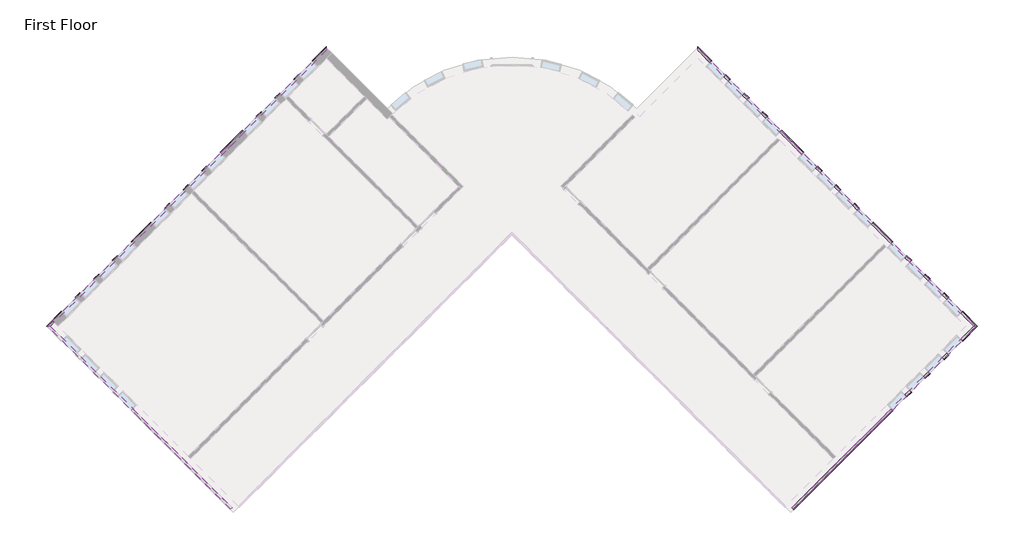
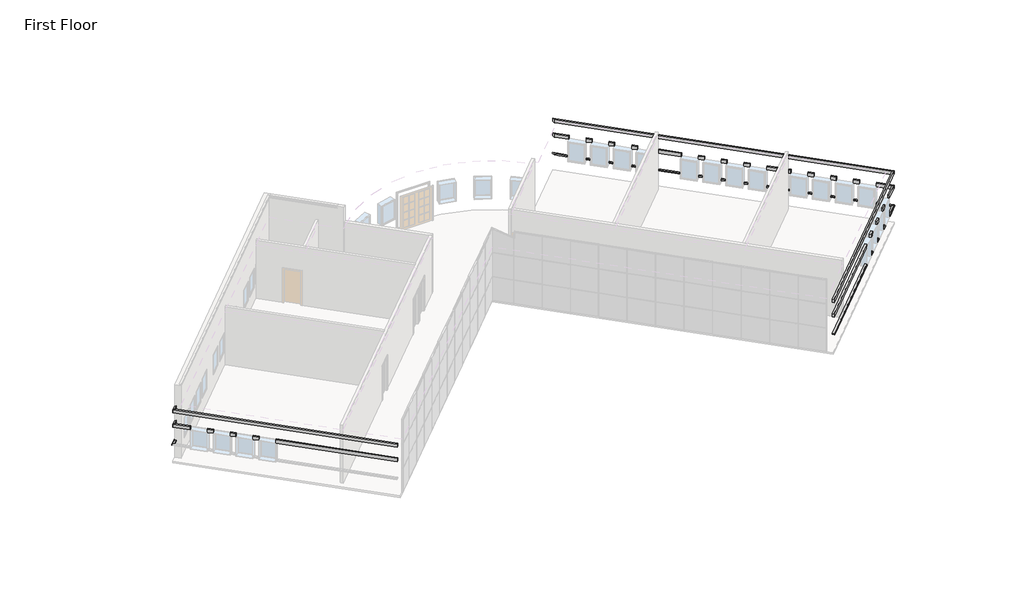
# One storey, part 5 of 5: 11 proxies.
"""IFC4 building model written with IfcOpenShell, lengths in millimetres."""

import ifcopenshell
import ifcopenshell.guid

model = None  # the IFC model being written
_history = None  # IfcOwnerHistory: only IFC2X3 demands one
_inside = {}  # id of a spatial element -> (the spatial element, [elements in it])
_under = {}  # id of a project, library or spatial element -> (it, [spatial elements below it])
_declared = {}  # id of a project -> (the project, [libraries it declares])
_typed = {}  # id of a type object -> (the type object, [elements of that type])
_made_of = {}  # id of a material, layer set ... -> (it, [elements and type objects made of it])


def new_model(schema):
    """Start an empty IFC model of exactly this schema.

    Asked for "IFC4X3", IfcOpenShell would pick the latest addendum, in which some entities
    have other attributes; the version numbers below select the first issue.
    IFC2X3 requires an IfcOwnerHistory on every rooted entity: one is made here for all.
    """
    global model, _history
    if schema == "IFC4X3":
        model = ifcopenshell.file(schema_version=(4, 3, 0, 0))
    else:
        model = ifcopenshell.file(schema=schema)
    _inside.clear()
    _under.clear()
    _declared.clear()
    _typed.clear()
    _made_of.clear()
    _history = None
    if model.schema == "IFC2X3":
        org = make("IfcOrganization", Name="unknown")
        user = make(
            "IfcPersonAndOrganization",
            ThePerson=make("IfcPerson", FamilyName="unknown"),
            TheOrganization=org,
        )
        app = make(
            "IfcApplication",
            ApplicationDeveloper=org,
            Version="unknown",
            ApplicationFullName="unknown",
            ApplicationIdentifier="unknown",
        )
        _history = make(
            "IfcOwnerHistory",
            OwningUser=user,
            OwningApplication=app,
            ChangeAction="ADDED",
            CreationDate=0,
        )
    return model


def make(cls, **values):
    """One entity of the class cls with the attributes given. An attribute that is None is left unset."""
    return model.create_entity(
        cls, **{name: value for name, value in values.items() if value is not None}
    )


def rooted(cls, **values):
    """An entity with a GlobalId (a new one), such as an element, a storey or a relation."""
    return make(cls, GlobalId=ifcopenshell.guid.new(), OwnerHistory=_history, **values)


def si_unit(unit_type, name, prefix=None):
    """IfcSIUnit, for example si_unit("LENGTHUNIT", "METRE", prefix="MILLI")."""
    return make("IfcSIUnit", UnitType=unit_type, Prefix=prefix, Name=name)


def assignment(units):
    """IfcUnitAssignment: the units of a project."""
    return None if units is None else make("IfcUnitAssignment", Units=units)


def point(xyz):
    """IfcCartesianPoint."""
    return None if xyz is None else make("IfcCartesianPoint", Coordinates=xyz)


def direction(xyz):
    """IfcDirection."""
    return None if xyz is None else make("IfcDirection", DirectionRatios=xyz)


def frame(location, z_axis=None, x_axis=None):
    """IfcAxis2Placement3D, a coordinate frame: its origin and axes. An axis left out is left unset."""
    return make(
        "IfcAxis2Placement3D",
        Location=point(location),
        Axis=direction(z_axis),
        RefDirection=direction(x_axis),
    )


def origin():
    """The frame at (0, 0, 0) with its axes left unset."""
    return frame((0.0, 0.0, 0.0))


def place(relative_to, where):
    """IfcLocalPlacement: puts the frame where relative to a parent placement (None: the world)."""
    return make(
        "IfcLocalPlacement", PlacementRelTo=relative_to, RelativePlacement=where
    )


def context(
    kind, dimensions, precision=None, world=None, true_north=None, identifier=None
):
    """IfcGeometricRepresentationContext, for example the 3D "Model" context."""
    return make(
        "IfcGeometricRepresentationContext",
        ContextIdentifier=identifier,
        ContextType=kind,
        CoordinateSpaceDimension=dimensions,
        Precision=precision,
        WorldCoordinateSystem=world,
        TrueNorth=true_north,
    )


def project(units=None, contexts=None):
    """IfcProject with its units and contexts."""
    return rooted(
        "IfcProject",
        Name="project",
        RepresentationContexts=contexts,
        UnitsInContext=assignment(units),
    )


def spatial(cls, under=None, at=None, **own):
    """A site, building, storey or space (cls), placed at a placement, below another one or the project."""
    s = rooted(cls, ObjectPlacement=at, **own)
    if under is not None:
        _under.setdefault(under.id(), (under, []))[1].append(s)
    return s


def polyline(points):
    """IfcPolyline through the points."""
    return make("IfcPolyline", Points=[point(p) for p in points])


def outline(outer, holes=None, kind="AREA"):
    """IfcArbitraryClosedProfileDef: a profile drawn as a closed curve; with holes, ...WithVoids."""
    if holes is None:
        return make("IfcArbitraryClosedProfileDef", ProfileType=kind, OuterCurve=outer)
    return make(
        "IfcArbitraryProfileDefWithVoids",
        ProfileType=kind,
        OuterCurve=outer,
        InnerCurves=holes,
    )


def extrude(swept, where, along, depth):
    """IfcExtrudedAreaSolid: the profile swept, set in the frame where, extruded along a direction by depth."""
    return make(
        "IfcExtrudedAreaSolid",
        SweptArea=swept,
        Position=where,
        ExtrudedDirection=direction(along),
        Depth=depth,
    )


def faces_of(points, faces, orient=None, outer=None):
    """IfcFace entities. A face is a list of loops; a loop is a list of indices into points, from 0.

    orient and outer hold one flag for each loop. By default every Orientation is true, the
    first loop of a face is its IfcFaceOuterBound and the others are IfcFaceBound.
    """
    made = []
    for i, loops in enumerate(faces):
        bounds = []
        for j, loop in enumerate(loops):
            is_outer = j == 0 if outer is None else outer[i][j]
            bounds.append(
                make(
                    "IfcFaceOuterBound" if is_outer else "IfcFaceBound",
                    Bound=make("IfcPolyLoop", Polygon=[points[k] for k in loop]),
                    Orientation=True if orient is None else orient[i][j],
                )
            )
        made.append(make("IfcFace", Bounds=bounds))
    return made


def faceted_brep(points, faces, orient=None, outer=None, voids=None):
    """IfcFacetedBrep: a solid bounded by flat faces; with voids (closed shells), ...WithVoids."""
    shared = [point(p) for p in points]
    hull = make("IfcClosedShell", CfsFaces=faces_of(shared, faces, orient, outer))
    if voids is None:
        return make("IfcFacetedBrep", Outer=hull)
    return make(
        "IfcFacetedBrepWithVoids",
        Outer=hull,
        Voids=[
            make(cls, CfsFaces=faces_of(shared, fs, o, b)) for cls, fs, o, b in voids
        ],
    )


def shape(context_of_items, identifier, shape_type, items):
    """IfcShapeRepresentation: the items that make up one representation, for example the "Body"."""
    return make(
        "IfcShapeRepresentation",
        ContextOfItems=context_of_items,
        RepresentationIdentifier=identifier,
        RepresentationType=shape_type,
        Items=items,
    )


def made_of(thing, what):
    """Note that an element or type object is made of a material, layer set ...; save() writes the relation."""
    if what is not None:
        _made_of.setdefault(what.id(), (what, []))[1].append(thing)
    return thing


def element(
    cls,
    number,
    at=None,
    inside=None,
    cuts=None,
    type_object=None,
    material=None,
    context=None,
    identifier="Body",
    shape_type=None,
    held_by="IfcProductDefinitionShape",
    body=None,
    shapes=None,
    **own,
):
    """One element of the class cls, such as IfcWall. Its Tag is "e" and its number.

    at: its placement. inside: the storey or other place that contains it. cuts: it is an
    opening in that element (IfcRelVoidsElement). A single representation is given by context,
    identifier, shape_type and body (its items); several are given by shapes. held_by: the class
    of the entity that holds the representations. save() writes the other relations.
    """
    e = rooted(cls, Tag="e%d" % number, ObjectPlacement=at, **own)
    if body is not None:
        shapes = [shape(context, identifier, shape_type, body)]
    if shapes is not None:
        e.Representation = make(held_by, Representations=shapes)
    if inside is not None:
        _inside.setdefault(inside.id(), (inside, []))[1].append(e)
    if cuts is not None:
        rooted(
            "IfcRelVoidsElement", RelatingBuildingElement=cuts, RelatedOpeningElement=e
        )
    if type_object is not None:
        _typed.setdefault(type_object.id(), (type_object, []))[1].append(e)
    return made_of(e, material)


def aggregate(whole, parts):
    """IfcRelAggregates: a whole, such as a stair, and the parts it consists of."""
    return rooted("IfcRelAggregates", RelatingObject=whole, RelatedObjects=parts)


def save(model, path):
    """Write the relations noted so far, then the file.

    IfcRelAggregates (storeys below a building ...), IfcRelContainedInSpatialStructure (elements
    in a storey), IfcRelDefinesByType, IfcRelAssociatesMaterial and IfcRelDeclares: one each for
    every whole, place, type object, material and project.
    """
    for whole, parts in _under.values():
        aggregate(whole, parts)
    for where, things in _inside.values():
        rooted(
            "IfcRelContainedInSpatialStructure",
            RelatedElements=things,
            RelatingStructure=where,
        )
    for kind, things in _typed.values():
        rooted("IfcRelDefinesByType", RelatedObjects=things, RelatingType=kind)
    for what, things in _made_of.values():
        rooted("IfcRelAssociatesMaterial", RelatedObjects=things, RelatingMaterial=what)
    for by, libraries in _declared.values():
        rooted("IfcRelDeclares", RelatingContext=by, RelatedDefinitions=libraries)
    model.write(path)


model = new_model("IFC4")

# Units and contexts
model_context = context("Model", 3, world=origin())
ifc_project = project(units=[si_unit("LENGTHUNIT", "METRE", prefix="MILLI")], contexts=[model_context])

# Site, building, storey
site = spatial("IfcSite", under=ifc_project)
building = spatial("IfcBuilding", under=site)
storey = spatial("IfcBuildingStorey", under=building, Name="First Floor", Elevation=0.0)

# Proxies
placement = place(None, origin())
element("IfcBuildingElementProxy", 1, Name="Wall Sweeps", at=placement, inside=storey, context=model_context, shape_type="Brep", body=[
    faceted_brep([(5753.0175119, 11443.3655905, 1085.85), (5753.0175119, 11573.5793042, 1085.85), (5753.0175119, 11622.9707129, 1041.4), (5753.0175119, 11622.9707129, 1016.0), (5753.0175119, 11443.3655905, 1016.0), (6317.415551, 10878.9675514, 1085.85), (6317.415551, 10878.9675514, 1016.0), (6382.5224079, 10944.0744083, 1016.0), (6407.2181122, 10968.7701126, 1016.0), (6407.2181122, 10968.7701126, 1041.4), (6382.5224079, 10944.0744083, 1085.85), (5937.1127624, 11259.27034, 1085.85), (5937.1127624, 11259.27034, 1016.0)], [[[0, 1, 2, 3, 4]], [[5, 6, 7, 8, 9, 10]], [[1, 0, 11, 5, 10]], [[2, 1, 10, 9]], [[3, 2, 9, 8]], [[4, 3, 8, 7, 6, 12]], [[0, 4, 12, 6, 5, 11]]]),
    faceted_brep([(6963.9939917, 10232.3891107, 1085.85), (7029.1008486, 10297.4959676, 1085.85), (7053.7965529, 10322.1916719, 1041.4), (7053.7965529, 10322.1916719, 1016.0), (7029.1008486, 10297.4959676, 1016.0), (6963.9939917, 10232.3891107, 1016.0), (7179.5201386, 10016.8629638, 1085.85), (7179.5201386, 10016.8629638, 1016.0), (7244.6269955, 10081.9698207, 1016.0), (7269.3226998, 10106.665525, 1016.0), (7269.3226998, 10106.665525, 1041.4), (7244.6269955, 10081.9698207, 1085.85)], [[[0, 1, 2, 3, 4, 5]], [[6, 7, 8, 9, 10, 11]], [[1, 0, 6, 11]], [[2, 1, 11, 10]], [[3, 2, 10, 9]], [[5, 4, 3, 9, 8, 7]], [[0, 5, 7, 6]]]),
    faceted_brep([(7826.0985793, 9370.2845231, 1085.85), (7891.2054362, 9435.39138, 1085.85), (7915.9011405, 9460.0870843, 1041.4), (7915.9011405, 9460.0870843, 1016.0), (7891.2054362, 9435.39138, 1016.0), (7826.0985793, 9370.2845231, 1016.0), (8041.6247262, 9154.7583762, 1085.85), (8041.6247262, 9154.7583762, 1016.0), (8106.7315831, 9219.8652331, 1016.0), (8131.4272874, 9244.5609374, 1016.0), (8131.4272874, 9244.5609374, 1041.4), (8106.7315831, 9219.8652331, 1085.85)], [[[0, 1, 2, 3, 4, 5]], [[6, 7, 8, 9, 10, 11]], [[1, 0, 6, 11]], [[2, 1, 11, 10]], [[3, 2, 10, 9]], [[5, 4, 3, 9, 8, 7]], [[0, 5, 7, 6]]]),
    faceted_brep([(8688.2031669, 8508.1799355, 1085.85), (8753.3100238, 8573.2867923, 1085.85), (8778.0057282, 8597.9824967, 1041.4), (8778.0057282, 8597.9824967, 1016.0), (8753.3100238, 8573.2867923, 1016.0), (8688.2031669, 8508.1799355, 1016.0), (8903.7293139, 8292.6537886, 1085.85), (8903.7293139, 8292.6537886, 1016.0), (8968.8361707, 8357.7606454, 1016.0), (8993.5318751, 8382.4563498, 1016.0), (8993.5318751, 8382.4563498, 1041.4), (8968.8361707, 8357.7606454, 1085.85)], [[[0, 1, 2, 3, 4, 5]], [[6, 7, 8, 9, 10, 11]], [[1, 0, 6, 11]], [[2, 1, 11, 10]], [[3, 2, 10, 9]], [[5, 4, 3, 9, 8, 7]], [[0, 5, 7, 6]]]),
    faceted_brep([(9550.3077546, 7646.0753478, 1085.85), (9615.4146114, 7711.1822047, 1085.85), (9640.1103158, 7735.877909, 1041.4), (9640.1103158, 7735.877909, 1016.0), (9615.4146114, 7711.1822047, 1016.0), (9550.3077546, 7646.0753478, 1016.0), (10574.7639411, 6621.6191613, 1085.85), (10574.7639411, 6621.6191613, 1016.0), (10639.870798, 6686.7260182, 1016.0), (10664.5665023, 6711.4217225, 1016.0), (10664.5665023, 6711.4217225, 1041.4), (10639.870798, 6686.7260182, 1085.85)], [[[0, 1, 2, 3, 4, 5]], [[6, 7, 8, 9, 10, 11]], [[1, 0, 6, 11]], [[2, 1, 11, 10]], [[3, 2, 10, 9]], [[5, 4, 3, 9, 8, 7]], [[0, 5, 7, 6]]]),
    faceted_brep([(11221.3423818, 5975.0407206, 1085.85), (11286.4492387, 6040.1475775, 1085.85), (11311.144943, 6064.8432818, 1041.4), (11311.144943, 6064.8432818, 1016.0), (11286.4492387, 6040.1475775, 1016.0), (11221.3423818, 5975.0407206, 1016.0), (11436.8685287, 5759.5145737, 1085.85), (11436.8685287, 5759.5145737, 1016.0), (11501.9753856, 5824.6214306, 1016.0), (11526.6710899, 5849.3171349, 1016.0), (11526.6710899, 5849.3171349, 1041.4), (11501.9753856, 5824.6214306, 1085.85)], [[[0, 1, 2, 3, 4, 5]], [[6, 7, 8, 9, 10, 11]], [[1, 0, 6, 11]], [[2, 1, 11, 10]], [[3, 2, 10, 9]], [[5, 4, 3, 9, 8, 7]], [[0, 5, 7, 6]]]),
    faceted_brep([(12083.4469694, 5112.936133, 1085.85), (12148.5538263, 5178.0429899, 1085.85), (12173.2495306, 5202.7386942, 1041.4), (12173.2495306, 5202.7386942, 1016.0), (12148.5538263, 5178.0429899, 1016.0), (12083.4469694, 5112.936133, 1016.0), (12298.9731163, 4897.4099861, 1085.85), (12298.9731163, 4897.4099861, 1016.0), (12364.0799732, 4962.516843, 1016.0), (12388.7756775, 4987.2125473, 1016.0), (12388.7756775, 4987.2125473, 1041.4), (12364.0799732, 4962.516843, 1085.85)], [[[0, 1, 2, 3, 4, 5]], [[6, 7, 8, 9, 10, 11]], [[1, 0, 6, 11]], [[2, 1, 11, 10]], [[3, 2, 10, 9]], [[5, 4, 3, 9, 8, 7]], [[0, 5, 7, 6]]]),
    faceted_brep([(12945.551557, 4250.8315454, 1085.85), (13010.6584139, 4315.9384023, 1085.85), (13035.3541182, 4340.6341066, 1041.4), (13035.3541182, 4340.6341066, 1016.0), (13010.6584139, 4315.9384023, 1016.0), (12945.551557, 4250.8315454, 1016.0), (13161.0777039, 4035.3053985, 1085.85), (13161.0777039, 4035.3053985, 1016.0), (13226.1845608, 4100.4122553, 1016.0), (13250.8802652, 4125.1079597, 1016.0), (13250.8802652, 4125.1079597, 1041.4), (13226.1845608, 4100.4122553, 1085.85)], [[[0, 1, 2, 3, 4, 5]], [[6, 7, 8, 9, 10, 11]], [[1, 0, 6, 11]], [[2, 1, 11, 10]], [[3, 2, 10, 9]], [[5, 4, 3, 9, 8, 7]], [[0, 5, 7, 6]]]),
    faceted_brep([(13807.6561447, 3388.7269578, 1085.85), (13872.7630015, 3453.8338146, 1085.85), (13897.4587059, 3478.529519, 1041.4), (13897.4587059, 3478.529519, 1016.0), (13872.7630015, 3453.8338146, 1016.0), (13807.6561447, 3388.7269578, 1016.0), (14723.1708449, 2473.2122576, 1085.85), (14723.1708449, 2473.2122576, 1016.0), (14788.2777017, 2538.3191144, 1016.0), (14812.9734061, 2563.0148188, 1016.0), (14812.9734061, 2563.0148188, 1041.4), (14788.2777017, 2538.3191144, 1085.85)], [[[0, 1, 2, 3, 4, 5]], [[6, 7, 8, 9, 10, 11]], [[1, 0, 6, 11]], [[2, 1, 11, 10]], [[3, 2, 10, 9]], [[5, 4, 3, 9, 8, 7]], [[0, 5, 7, 6]]]),
    faceted_brep([(15369.7492856, 1826.6338168, 1085.85), (15434.8561424, 1891.7406737, 1085.85), (15459.5518468, 1916.4363781, 1041.4), (15459.5518468, 1916.4363781, 1016.0), (15434.8561424, 1891.7406737, 1016.0), (15369.7492856, 1826.6338168, 1016.0), (15585.2754325, 1611.1076699, 1085.85), (15585.2754325, 1611.1076699, 1016.0), (15650.3822894, 1676.2145268, 1016.0), (15675.0779937, 1700.9102311, 1016.0), (15675.0779937, 1700.9102311, 1041.4), (15650.3822894, 1676.2145268, 1085.85)], [[[0, 1, 2, 3, 4, 5]], [[6, 7, 8, 9, 10, 11]], [[1, 0, 6, 11]], [[2, 1, 11, 10]], [[3, 2, 10, 9]], [[5, 4, 3, 9, 8, 7]], [[0, 5, 7, 6]]]),
    faceted_brep([(16231.8538732, 964.5292292, 1085.85), (16296.9607301, 1029.6360861, 1085.85), (16321.6564344, 1054.3317904, 1041.4), (16321.6564344, 1054.3317904, 1016.0), (16296.9607301, 1029.6360861, 1016.0), (16231.8538732, 964.5292292, 1016.0), (16447.3800201, 749.0030823, 1085.85), (16447.3800201, 749.0030823, 1016.0), (16512.486877, 814.1099392, 1016.0), (16537.1825813, 838.8056435, 1016.0), (16537.1825813, 838.8056435, 1041.4), (16512.486877, 814.1099392, 1085.85)], [[[0, 1, 2, 3, 4, 5]], [[6, 7, 8, 9, 10, 11]], [[1, 0, 6, 11]], [[2, 1, 11, 10]], [[3, 2, 10, 9]], [[5, 4, 3, 9, 8, 7]], [[0, 5, 7, 6]]]),
    faceted_brep([(17093.9584608, 102.4246416, 1085.85), (17159.0653177, 167.5314985, 1085.85), (17183.761022, 192.2272028, 1041.4), (17183.761022, 192.2272028, 1016.0), (17159.0653177, 167.5314985, 1016.0), (17093.9584608, 102.4246416, 1016.0), (17309.4846077, -113.1015053, 1085.85), (17309.4846077, -113.1015053, 1016.0), (17374.5914646, -47.9946484, 1016.0), (17399.2871689, -23.2989441, 1016.0), (17399.2871689, -23.2989441, 1041.4), (17374.5914646, -47.9946484, 1085.85)], [[[0, 1, 2, 3, 4, 5]], [[6, 7, 8, 9, 10, 11]], [[1, 0, 6, 11]], [[2, 1, 11, 10]], [[3, 2, 10, 9]], [[5, 4, 3, 9, 8, 7]], [[0, 5, 7, 6]]]),
    faceted_brep([(17956.0630484, -759.679946, 1085.85), (18021.1699053, -694.5730891, 1085.85), (18045.8656096, -669.8773848, 1041.4), (18045.8656096, -669.8773848, 1016.0), (18021.1699053, -694.5730891, 1016.0), (17956.0630484, -759.679946, 1016.0), (18554.3726125, -1357.9895101, 1085.85), (18554.3726125, -1357.9895101, 1016.0), (18733.9777349, -1357.9895101, 1016.0), (18733.9777349, -1357.9895101, 1041.4), (18684.5863263, -1357.9895101, 1085.85)], [[[0, 1, 2, 3, 4, 5]], [[6, 7, 8, 9, 10]], [[1, 0, 6, 10]], [[2, 1, 10, 9]], [[3, 2, 9, 8]], [[5, 4, 3, 8, 7]], [[0, 5, 7, 6]]]),
])
element("IfcBuildingElementProxy", 2, Name="Wall Sweeps", at=placement, inside=storey, context=model_context, shape_type="Brep", body=[
    faceted_brep([(5753.0175119, 11573.5793042, 2336.8), (5753.0175119, 11573.5793042, 2133.6), (5753.0175119, 11443.3655905, 2133.6), (5753.0175119, 11443.3655905, 2336.8), (6382.5224079, 10944.0744083, 2336.8), (6317.415551, 10878.9675514, 2336.8), (6317.415551, 10878.9675514, 2133.6), (6382.5224079, 10944.0744083, 2133.6), (6002.2196193, 11324.3771969, 2336.8), (6002.2196193, 11324.3771969, 2133.6), (5937.1127624, 11259.27034, 2133.6), (5937.1127624, 11259.27034, 2336.8)], [[[0, 1, 2, 3]], [[4, 5, 6, 7]], [[1, 0, 8, 4, 7, 9]], [[2, 1, 9, 7, 6, 10]], [[3, 2, 10, 6, 5, 11]], [[0, 3, 11, 5, 4, 8]]]),
    faceted_brep([(7029.1008486, 10297.4959676, 2336.8), (7029.1008486, 10297.4959676, 2133.6), (6963.9939917, 10232.3891107, 2133.6), (6963.9939917, 10232.3891107, 2336.8), (7244.6269955, 10081.9698207, 2336.8), (7179.5201386, 10016.8629638, 2336.8), (7179.5201386, 10016.8629638, 2133.6), (7244.6269955, 10081.9698207, 2133.6)], [[[0, 1, 2, 3]], [[4, 5, 6, 7]], [[1, 0, 4, 7]], [[2, 1, 7, 6]], [[3, 2, 6, 5]], [[0, 3, 5, 4]]]),
    faceted_brep([(7891.2054362, 9435.39138, 2336.8), (7891.2054362, 9435.39138, 2133.6), (7826.0985793, 9370.2845231, 2133.6), (7826.0985793, 9370.2845231, 2336.8), (8106.7315831, 9219.8652331, 2336.8), (8041.6247262, 9154.7583762, 2336.8), (8041.6247262, 9154.7583762, 2133.6), (8106.7315831, 9219.8652331, 2133.6)], [[[0, 1, 2, 3]], [[4, 5, 6, 7]], [[1, 0, 4, 7]], [[2, 1, 7, 6]], [[3, 2, 6, 5]], [[0, 3, 5, 4]]]),
    faceted_brep([(8753.3100238, 8573.2867923, 2336.8), (8753.3100238, 8573.2867923, 2133.6), (8688.2031669, 8508.1799355, 2133.6), (8688.2031669, 8508.1799355, 2336.8), (8968.8361707, 8357.7606454, 2336.8), (8903.7293139, 8292.6537886, 2336.8), (8903.7293139, 8292.6537886, 2133.6), (8968.8361707, 8357.7606454, 2133.6)], [[[0, 1, 2, 3]], [[4, 5, 6, 7]], [[1, 0, 4, 7]], [[2, 1, 7, 6]], [[3, 2, 6, 5]], [[0, 3, 5, 4]]]),
    faceted_brep([(9615.4146114, 7711.1822047, 2336.8), (9615.4146114, 7711.1822047, 2133.6), (9550.3077546, 7646.0753478, 2133.6), (9550.3077546, 7646.0753478, 2336.8), (10639.870798, 6686.7260182, 2336.8), (10574.7639411, 6621.6191613, 2336.8), (10574.7639411, 6621.6191613, 2133.6), (10639.870798, 6686.7260182, 2133.6)], [[[0, 1, 2, 3]], [[4, 5, 6, 7]], [[1, 0, 4, 7]], [[2, 1, 7, 6]], [[3, 2, 6, 5]], [[0, 3, 5, 4]]]),
    faceted_brep([(11286.4492387, 6040.1475775, 2336.8), (11286.4492387, 6040.1475775, 2133.6), (11221.3423818, 5975.0407206, 2133.6), (11221.3423818, 5975.0407206, 2336.8), (11501.9753856, 5824.6214306, 2336.8), (11436.8685287, 5759.5145737, 2336.8), (11436.8685287, 5759.5145737, 2133.6), (11501.9753856, 5824.6214306, 2133.6)], [[[0, 1, 2, 3]], [[4, 5, 6, 7]], [[1, 0, 4, 7]], [[2, 1, 7, 6]], [[3, 2, 6, 5]], [[0, 3, 5, 4]]]),
    faceted_brep([(12148.5538263, 5178.0429899, 2336.8), (12148.5538263, 5178.0429899, 2133.6), (12083.4469694, 5112.936133, 2133.6), (12083.4469694, 5112.936133, 2336.8), (12364.0799732, 4962.516843, 2336.8), (12298.9731163, 4897.4099861, 2336.8), (12298.9731163, 4897.4099861, 2133.6), (12364.0799732, 4962.516843, 2133.6)], [[[0, 1, 2, 3]], [[4, 5, 6, 7]], [[1, 0, 4, 7]], [[2, 1, 7, 6]], [[3, 2, 6, 5]], [[0, 3, 5, 4]]]),
    faceted_brep([(13010.6584139, 4315.9384023, 2336.8), (13010.6584139, 4315.9384023, 2133.6), (12945.551557, 4250.8315454, 2133.6), (12945.551557, 4250.8315454, 2336.8), (13226.1845608, 4100.4122553, 2336.8), (13161.0777039, 4035.3053985, 2336.8), (13161.0777039, 4035.3053985, 2133.6), (13226.1845608, 4100.4122553, 2133.6)], [[[0, 1, 2, 3]], [[4, 5, 6, 7]], [[1, 0, 4, 7]], [[2, 1, 7, 6]], [[3, 2, 6, 5]], [[0, 3, 5, 4]]]),
    faceted_brep([(13872.7630015, 3453.8338146, 2336.8), (13872.7630015, 3453.8338146, 2133.6), (13807.6561447, 3388.7269578, 2133.6), (13807.6561447, 3388.7269578, 2336.8), (14788.2777017, 2538.3191144, 2336.8), (14723.1708449, 2473.2122576, 2336.8), (14723.1708449, 2473.2122576, 2133.6), (14788.2777017, 2538.3191144, 2133.6)], [[[0, 1, 2, 3]], [[4, 5, 6, 7]], [[1, 0, 4, 7]], [[2, 1, 7, 6]], [[3, 2, 6, 5]], [[0, 3, 5, 4]]]),
    faceted_brep([(15434.8561424, 1891.7406737, 2336.8), (15434.8561424, 1891.7406737, 2133.6), (15369.7492856, 1826.6338168, 2133.6), (15369.7492856, 1826.6338168, 2336.8), (15650.3822894, 1676.2145268, 2336.8), (15585.2754325, 1611.1076699, 2336.8), (15585.2754325, 1611.1076699, 2133.6), (15650.3822894, 1676.2145268, 2133.6)], [[[0, 1, 2, 3]], [[4, 5, 6, 7]], [[1, 0, 4, 7]], [[2, 1, 7, 6]], [[3, 2, 6, 5]], [[0, 3, 5, 4]]]),
    faceted_brep([(16296.9607301, 1029.6360861, 2336.8), (16296.9607301, 1029.6360861, 2133.6), (16231.8538732, 964.5292292, 2133.6), (16231.8538732, 964.5292292, 2336.8), (16512.486877, 814.1099392, 2336.8), (16447.3800201, 749.0030823, 2336.8), (16447.3800201, 749.0030823, 2133.6), (16512.486877, 814.1099392, 2133.6)], [[[0, 1, 2, 3]], [[4, 5, 6, 7]], [[1, 0, 4, 7]], [[2, 1, 7, 6]], [[3, 2, 6, 5]], [[0, 3, 5, 4]]]),
    faceted_brep([(17159.0653177, 167.5314985, 2336.8), (17159.0653177, 167.5314985, 2133.6), (17093.9584608, 102.4246416, 2133.6), (17093.9584608, 102.4246416, 2336.8), (17374.5914646, -47.9946484, 2336.8), (17309.4846077, -113.1015053, 2336.8), (17309.4846077, -113.1015053, 2133.6), (17374.5914646, -47.9946484, 2133.6)], [[[0, 1, 2, 3]], [[4, 5, 6, 7]], [[1, 0, 4, 7]], [[2, 1, 7, 6]], [[3, 2, 6, 5]], [[0, 3, 5, 4]]]),
    faceted_brep([(18021.1699053, -694.5730891, 2336.8), (18021.1699053, -694.5730891, 2133.6), (17956.0630484, -759.679946, 2133.6), (17956.0630484, -759.679946, 2336.8), (18684.5863263, -1357.9895101, 2336.8), (18554.3726125, -1357.9895101, 2336.8), (18554.3726125, -1357.9895101, 2133.6), (18684.5863263, -1357.9895101, 2133.6)], [[[0, 1, 2, 3]], [[4, 5, 6, 7]], [[1, 0, 4, 7]], [[2, 1, 7, 6]], [[3, 2, 6, 5]], [[0, 3, 5, 4]]]),
])
element("IfcBuildingElementProxy", 3, Name="Wall Sweeps", at=placement, inside=storey, context=model_context, shape_type="Brep", body=[
    faceted_brep([(5753.0175119, 11573.5793042, 3251.2), (5753.0175119, 11573.5793042, 3048.0), (5753.0175119, 11443.3655905, 3048.0), (5753.0175119, 11443.3655905, 3251.2), (18684.5863263, -1357.9895101, 3251.2), (18554.3726125, -1357.9895101, 3251.2), (18554.3726125, -1357.9895101, 3048.0), (18684.5863263, -1357.9895101, 3048.0), (6002.2196193, 11324.3771969, 3251.2), (6002.2196193, 11324.3771969, 3048.0), (5937.1127624, 11259.27034, 3048.0), (5937.1127624, 11259.27034, 3251.2)], [[[0, 1, 2, 3]], [[4, 5, 6, 7]], [[1, 0, 8, 4, 7, 9]], [[2, 1, 9, 7, 6, 10]], [[3, 2, 10, 6, 5, 11]], [[0, 3, 11, 5, 4, 8]]]),
])
element("IfcBuildingElementProxy", 4, Name="Wall Sweeps", at=placement, inside=storey, context=model_context, shape_type="Brep", body=[
    faceted_brep([(18554.3726125, -1357.9895101, 1085.85), (18684.5863263, -1357.9895101, 1085.85), (18733.9777349, -1357.9895101, 1041.4), (18733.9777349, -1357.9895101, 1016.0), (18554.3726125, -1357.9895101, 1016.0), (17956.0630484, -1956.2990742, 1085.85), (17956.0630484, -1956.2990742, 1016.0), (18021.1699053, -2021.405931, 1016.0), (18045.8656096, -2046.1016354, 1016.0), (18045.8656096, -2046.1016354, 1041.4), (18021.1699053, -2021.405931, 1085.85), (18370.277362, -1542.0847606, 1085.85), (18370.277362, -1542.0847606, 1016.0)], [[[0, 1, 2, 3, 4]], [[5, 6, 7, 8, 9, 10]], [[1, 0, 11, 5, 10]], [[2, 1, 10, 9]], [[3, 2, 9, 8]], [[4, 3, 8, 7, 6, 12]], [[0, 4, 12, 6, 5, 11]]]),
    faceted_brep([(17309.4846077, -2602.8775149, 1085.85), (17374.5914646, -2667.9843718, 1085.85), (17399.2871689, -2692.6800761, 1041.4), (17399.2871689, -2692.6800761, 1016.0), (17374.5914646, -2667.9843718, 1016.0), (17309.4846077, -2602.8775149, 1016.0), (17093.9584608, -2818.4036618, 1085.85), (17093.9584608, -2818.4036618, 1016.0), (17159.0653177, -2883.5105187, 1016.0), (17183.761022, -2908.206223, 1016.0), (17183.761022, -2908.206223, 1041.4), (17159.0653177, -2883.5105187, 1085.85)], [[[0, 1, 2, 3, 4, 5]], [[6, 7, 8, 9, 10, 11]], [[1, 0, 6, 11]], [[2, 1, 11, 10]], [[3, 2, 10, 9]], [[5, 4, 3, 9, 8, 7]], [[0, 5, 7, 6]]]),
    faceted_brep([(16447.3800201, -3464.9821025, 1085.85), (16512.486877, -3530.0889594, 1085.85), (16537.1825813, -3554.7846637, 1041.4), (16537.1825813, -3554.7846637, 1016.0), (16512.486877, -3530.0889594, 1016.0), (16447.3800201, -3464.9821025, 1016.0), (16231.8538732, -3680.5082494, 1085.85), (16231.8538732, -3680.5082494, 1016.0), (16296.9607301, -3745.6151063, 1016.0), (16321.6564344, -3770.3108106, 1016.0), (16321.6564344, -3770.3108106, 1041.4), (16296.9607301, -3745.6151063, 1085.85)], [[[0, 1, 2, 3, 4, 5]], [[6, 7, 8, 9, 10, 11]], [[1, 0, 6, 11]], [[2, 1, 11, 10]], [[3, 2, 10, 9]], [[5, 4, 3, 9, 8, 7]], [[0, 5, 7, 6]]]),
    faceted_brep([(15585.2754325, -4327.0866901, 1085.85), (15650.3822894, -4392.193547, 1085.85), (15675.0779937, -4416.8892513, 1041.4), (15675.0779937, -4416.8892513, 1016.0), (15650.3822894, -4392.193547, 1016.0), (15585.2754325, -4327.0866901, 1016.0), (15369.7492856, -4542.612837, 1085.85), (15369.7492856, -4542.612837, 1016.0), (15434.8561424, -4607.7196939, 1016.0), (15459.5518468, -4632.4153982, 1016.0), (15459.5518468, -4632.4153982, 1041.4), (15434.8561424, -4607.7196939, 1085.85)], [[[0, 1, 2, 3, 4, 5]], [[6, 7, 8, 9, 10, 11]], [[1, 0, 6, 11]], [[2, 1, 11, 10]], [[3, 2, 10, 9]], [[5, 4, 3, 9, 8, 7]], [[0, 5, 7, 6]]]),
    faceted_brep([(14723.1708449, -5189.1912777, 1085.85), (14788.2777017, -5254.2981346, 1085.85), (14812.9734061, -5278.993839, 1041.4), (14812.9734061, -5278.993839, 1016.0), (14788.2777017, -5254.2981346, 1016.0), (14723.1708449, -5189.1912777, 1016.0), (10123.0346468, -9789.3274758, 1085.85), (10123.0346468, -9789.3274758, 1016.0), (10188.1415037, -9854.4343326, 1016.0), (10212.837208, -9879.130037, 1016.0), (10212.837208, -9879.130037, 1041.4), (10188.1415037, -9854.4343326, 1085.85)], [[[0, 1, 2, 3, 4, 5]], [[6, 7, 8, 9, 10, 11]], [[1, 0, 6, 11]], [[2, 1, 11, 10]], [[3, 2, 10, 9]], [[5, 4, 3, 9, 8, 7]], [[0, 5, 7, 6]]]),
])
element("IfcBuildingElementProxy", 5, Name="Wall Sweeps", at=placement, inside=storey, context=model_context, shape_type="Brep", body=[
    faceted_brep([(18684.5863263, -1357.9895101, 2336.8), (18684.5863263, -1357.9895101, 2133.6), (18554.3726125, -1357.9895101, 2133.6), (18554.3726125, -1357.9895101, 2336.8), (18021.1699053, -2021.405931, 2336.8), (17956.0630484, -1956.2990742, 2336.8), (17956.0630484, -1956.2990742, 2133.6), (18021.1699053, -2021.405931, 2133.6), (18435.3842189, -1607.1916175, 2336.8), (18435.3842189, -1607.1916175, 2133.6), (18370.277362, -1542.0847606, 2133.6), (18370.277362, -1542.0847606, 2336.8)], [[[0, 1, 2, 3]], [[4, 5, 6, 7]], [[1, 0, 8, 4, 7, 9]], [[2, 1, 9, 7, 6, 10]], [[3, 2, 10, 6, 5, 11]], [[0, 3, 11, 5, 4, 8]]]),
    faceted_brep([(17374.5914646, -2667.9843718, 2336.8), (17374.5914646, -2667.9843718, 2133.6), (17309.4846077, -2602.8775149, 2133.6), (17309.4846077, -2602.8775149, 2336.8), (17159.0653177, -2883.5105187, 2336.8), (17093.9584608, -2818.4036618, 2336.8), (17093.9584608, -2818.4036618, 2133.6), (17159.0653177, -2883.5105187, 2133.6)], [[[0, 1, 2, 3]], [[4, 5, 6, 7]], [[1, 0, 4, 7]], [[2, 1, 7, 6]], [[3, 2, 6, 5]], [[0, 3, 5, 4]]]),
    faceted_brep([(16512.486877, -3530.0889594, 2336.8), (16512.486877, -3530.0889594, 2133.6), (16447.3800201, -3464.9821025, 2133.6), (16447.3800201, -3464.9821025, 2336.8), (16296.9607301, -3745.6151063, 2336.8), (16231.8538732, -3680.5082494, 2336.8), (16231.8538732, -3680.5082494, 2133.6), (16296.9607301, -3745.6151063, 2133.6)], [[[0, 1, 2, 3]], [[4, 5, 6, 7]], [[1, 0, 4, 7]], [[2, 1, 7, 6]], [[3, 2, 6, 5]], [[0, 3, 5, 4]]]),
    faceted_brep([(15650.3822894, -4392.193547, 2336.8), (15650.3822894, -4392.193547, 2133.6), (15585.2754325, -4327.0866901, 2133.6), (15585.2754325, -4327.0866901, 2336.8), (15434.8561424, -4607.7196939, 2336.8), (15369.7492856, -4542.612837, 2336.8), (15369.7492856, -4542.612837, 2133.6), (15434.8561424, -4607.7196939, 2133.6)], [[[0, 1, 2, 3]], [[4, 5, 6, 7]], [[1, 0, 4, 7]], [[2, 1, 7, 6]], [[3, 2, 6, 5]], [[0, 3, 5, 4]]]),
    faceted_brep([(14788.2777017, -5254.2981346, 2336.8), (14788.2777017, -5254.2981346, 2133.6), (14723.1708449, -5189.1912777, 2133.6), (14723.1708449, -5189.1912777, 2336.8), (10188.1415037, -9854.4343326, 2336.8), (10123.0346468, -9789.3274758, 2336.8), (10123.0346468, -9789.3274758, 2133.6), (10188.1415037, -9854.4343326, 2133.6)], [[[0, 1, 2, 3]], [[4, 5, 6, 7]], [[1, 0, 4, 7]], [[2, 1, 7, 6]], [[3, 2, 6, 5]], [[0, 3, 5, 4]]]),
])
element("IfcBuildingElementProxy", 6, Name="Wall Sweeps", at=placement, inside=storey, context=model_context, shape_type="Brep", body=[
    faceted_brep([(18684.5863263, -1357.9895101, 3251.2), (18684.5863263, -1357.9895101, 3048.0), (18554.3726125, -1357.9895101, 3048.0), (18554.3726125, -1357.9895101, 3251.2), (10188.1415037, -9854.4343326, 3251.2), (10123.0346468, -9789.3274758, 3251.2), (10123.0346468, -9789.3274758, 3048.0), (10188.1415037, -9854.4343326, 3048.0), (18435.3842189, -1607.1916175, 3251.2), (18435.3842189, -1607.1916175, 3048.0), (18370.277362, -1542.0847606, 3048.0), (18370.277362, -1542.0847606, 3251.2)], [[[0, 1, 2, 3]], [[4, 5, 6, 7]], [[1, 0, 8, 4, 7, 9]], [[2, 1, 9, 7, 6, 10]], [[3, 2, 10, 6, 5, 11]], [[0, 3, 11, 5, 4, 8]]]),
])
element("IfcBuildingElementProxy", 7, Name="Wall Sweeps", at=placement, inside=storey, context=model_context, shape_type="SweptSolid", body=[
    extrude(outline(polyline([(-15859.0913754, -9789.3274758), (-15924.1982323, -9854.4343326), (-20524.3344303, -5254.2981346), (-20459.2275735, -5189.1912777), (-15859.0913754, -9789.3274758)])), frame((0.0, 0.0, 2133.6), z_axis=(0.0, 0.0, 1.0), x_axis=(1.0, 0.0, 0.0)), (0.0, 0.0, 1.0), 203.2),
    extrude(outline(polyline([(-21105.8060142, -4542.612837), (-21170.9128711, -4607.7196939), (-21386.439018, -4392.193547), (-21321.3321611, -4327.0866901), (-21105.8060142, -4542.612837)])), frame((0.0, 0.0, 2133.6), z_axis=(0.0, 0.0, 1.0), x_axis=(1.0, 0.0, 0.0)), (0.0, 0.0, 1.0), 203.2),
    extrude(outline(polyline([(-21967.9106018, -3680.5082494), (-22033.0174587, -3745.6151063), (-22248.5436056, -3530.0889594), (-22183.4367487, -3464.9821025), (-21967.9106018, -3680.5082494)])), frame((0.0, 0.0, 2133.6), z_axis=(0.0, 0.0, 1.0), x_axis=(1.0, 0.0, 0.0)), (0.0, 0.0, 1.0), 203.2),
    extrude(outline(polyline([(-22830.0151894, -2818.4036618), (-22895.1220463, -2883.5105187), (-23110.6481932, -2667.9843718), (-23045.5413363, -2602.8775149), (-22830.0151894, -2818.4036618)])), frame((0.0, 0.0, 2133.6), z_axis=(0.0, 0.0, 1.0), x_axis=(1.0, 0.0, 0.0)), (0.0, 0.0, 1.0), 203.2),
    extrude(outline(polyline([(-23692.119777, -1956.2990742), (-23757.2266339, -2021.405931), (-24420.6430549, -1357.9895101), (-24290.4293411, -1357.9895101), (-23692.119777, -1956.2990742)])), frame((0.0, 0.0, 2133.6), z_axis=(0.0, 0.0, 1.0), x_axis=(1.0, 0.0, 0.0)), (0.0, 0.0, 1.0), 203.2),
])
element("IfcBuildingElementProxy", 8, Name="Wall Sweeps", at=placement, inside=storey, context=model_context, shape_type="SweptSolid", body=[
    extrude(outline(polyline([(-15859.0913754, -9789.3274758), (-15924.1982323, -9854.4343326), (-24420.6430549, -1357.9895101), (-24290.4293411, -1357.9895101), (-15859.0913754, -9789.3274758)])), frame((0.0, 0.0, 3048.0), z_axis=(0.0, 0.0, 1.0), x_axis=(1.0, 0.0, 0.0)), (0.0, 0.0, 1.0), 203.2),
])
element("IfcBuildingElementProxy", 9, Name="Wall Sweeps", at=placement, inside=storey, context=model_context, shape_type="Brep", body=[
    faceted_brep([(-24290.4293411, -1357.9895101, 1085.85), (-24420.6430549, -1357.9895101, 1085.85), (-24470.0344635, -1357.9895101, 1041.4), (-24470.0344635, -1357.9895101, 1016.0), (-24290.4293411, -1357.9895101, 1016.0), (-23692.119777, -759.679946, 1085.85), (-23692.119777, -759.679946, 1016.0), (-23757.2266339, -694.5730891, 1016.0), (-23781.9223383, -669.8773848, 1016.0), (-23781.9223383, -669.8773848, 1041.4), (-23757.2266339, -694.5730891, 1085.85), (-24106.3340906, -1173.8942596, 1085.85), (-24106.3340906, -1173.8942596, 1016.0)], [[[0, 1, 2, 3, 4]], [[5, 6, 7, 8, 9, 10]], [[1, 0, 11, 5, 10]], [[2, 1, 10, 9]], [[3, 2, 9, 8]], [[4, 3, 8, 7, 6, 12]], [[0, 4, 12, 6, 5, 11]]]),
    faceted_brep([(-23045.5413363, -113.1015053, 1085.85), (-23110.6481932, -47.9946484, 1085.85), (-23135.3438975, -23.2989441, 1041.4), (-23135.3438975, -23.2989441, 1016.0), (-23110.6481932, -47.9946484, 1016.0), (-23045.5413363, -113.1015053, 1016.0), (-22830.0151894, 102.4246416, 1085.85), (-22830.0151894, 102.4246416, 1016.0), (-22895.1220463, 167.5314985, 1016.0), (-22919.8177506, 192.2272028, 1016.0), (-22919.8177506, 192.2272028, 1041.4), (-22895.1220463, 167.5314985, 1085.85)], [[[0, 1, 2, 3, 4, 5]], [[6, 7, 8, 9, 10, 11]], [[1, 0, 6, 11]], [[2, 1, 11, 10]], [[3, 2, 10, 9]], [[5, 4, 3, 9, 8, 7]], [[0, 5, 7, 6]]]),
    faceted_brep([(-22183.4367487, 749.0030823, 1085.85), (-22248.5436056, 814.1099392, 1085.85), (-22273.2393099, 838.8056435, 1041.4), (-22273.2393099, 838.8056435, 1016.0), (-22248.5436056, 814.1099392, 1016.0), (-22183.4367487, 749.0030823, 1016.0), (-21967.9106018, 964.5292292, 1085.85), (-21967.9106018, 964.5292292, 1016.0), (-22033.0174587, 1029.6360861, 1016.0), (-22057.713163, 1054.3317904, 1016.0), (-22057.713163, 1054.3317904, 1041.4), (-22033.0174587, 1029.6360861, 1085.85)], [[[0, 1, 2, 3, 4, 5]], [[6, 7, 8, 9, 10, 11]], [[1, 0, 6, 11]], [[2, 1, 11, 10]], [[3, 2, 10, 9]], [[5, 4, 3, 9, 8, 7]], [[0, 5, 7, 6]]]),
    faceted_brep([(-21321.3321611, 1611.1076699, 1085.85), (-21386.439018, 1676.2145268, 1085.85), (-21411.1347223, 1700.9102311, 1041.4), (-21411.1347223, 1700.9102311, 1016.0), (-21386.439018, 1676.2145268, 1016.0), (-21321.3321611, 1611.1076699, 1016.0), (-21105.8060142, 1826.6338168, 1085.85), (-21105.8060142, 1826.6338168, 1016.0), (-21170.9128711, 1891.7406737, 1016.0), (-21195.6085754, 1916.4363781, 1016.0), (-21195.6085754, 1916.4363781, 1041.4), (-21170.9128711, 1891.7406737, 1085.85)], [[[0, 1, 2, 3, 4, 5]], [[6, 7, 8, 9, 10, 11]], [[1, 0, 6, 11]], [[2, 1, 11, 10]], [[3, 2, 10, 9]], [[5, 4, 3, 9, 8, 7]], [[0, 5, 7, 6]]]),
    faceted_brep([(-20459.2275735, 2473.2122576, 1085.85), (-20524.3344303, 2538.3191144, 1085.85), (-20549.0301347, 2563.0148188, 1041.4), (-20549.0301347, 2563.0148188, 1016.0), (-20524.3344303, 2538.3191144, 1016.0), (-20459.2275735, 2473.2122576, 1016.0), (-19543.7128733, 3388.7269578, 1085.85), (-19543.7128733, 3388.7269578, 1016.0), (-19608.8197301, 3453.8338146, 1016.0), (-19633.5154345, 3478.529519, 1016.0), (-19633.5154345, 3478.529519, 1041.4), (-19608.8197301, 3453.8338146, 1085.85)], [[[0, 1, 2, 3, 4, 5]], [[6, 7, 8, 9, 10, 11]], [[1, 0, 6, 11]], [[2, 1, 11, 10]], [[3, 2, 10, 9]], [[5, 4, 3, 9, 8, 7]], [[0, 5, 7, 6]]]),
    faceted_brep([(-18897.1344326, 4035.3053985, 1085.85), (-18962.2412894, 4100.4122553, 1085.85), (-18986.9369938, 4125.1079597, 1041.4), (-18986.9369938, 4125.1079597, 1016.0), (-18962.2412894, 4100.4122553, 1016.0), (-18897.1344326, 4035.3053985, 1016.0), (-18681.6082856, 4250.8315454, 1085.85), (-18681.6082856, 4250.8315454, 1016.0), (-18746.7151425, 4315.9384023, 1016.0), (-18771.4108469, 4340.6341066, 1016.0), (-18771.4108469, 4340.6341066, 1041.4), (-18746.7151425, 4315.9384023, 1085.85)], [[[0, 1, 2, 3, 4, 5]], [[6, 7, 8, 9, 10, 11]], [[1, 0, 6, 11]], [[2, 1, 11, 10]], [[3, 2, 10, 9]], [[5, 4, 3, 9, 8, 7]], [[0, 5, 7, 6]]]),
    faceted_brep([(-18035.0298449, 4897.4099861, 1085.85), (-18100.1367018, 4962.516843, 1085.85), (-18124.8324061, 4987.2125473, 1041.4), (-18124.8324061, 4987.2125473, 1016.0), (-18100.1367018, 4962.516843, 1016.0), (-18035.0298449, 4897.4099861, 1016.0), (-17819.503698, 5112.936133, 1085.85), (-17819.503698, 5112.936133, 1016.0), (-17884.6105549, 5178.0429899, 1016.0), (-17909.3062592, 5202.7386942, 1016.0), (-17909.3062592, 5202.7386942, 1041.4), (-17884.6105549, 5178.0429899, 1085.85)], [[[0, 1, 2, 3, 4, 5]], [[6, 7, 8, 9, 10, 11]], [[1, 0, 6, 11]], [[2, 1, 11, 10]], [[3, 2, 10, 9]], [[5, 4, 3, 9, 8, 7]], [[0, 5, 7, 6]]]),
    faceted_brep([(-17172.9252573, 5759.5145737, 1085.85), (-17238.0321142, 5824.6214306, 1085.85), (-17262.7278185, 5849.3171349, 1041.4), (-17262.7278185, 5849.3171349, 1016.0), (-17238.0321142, 5824.6214306, 1016.0), (-17172.9252573, 5759.5145737, 1016.0), (-16957.3991104, 5975.0407206, 1085.85), (-16957.3991104, 5975.0407206, 1016.0), (-17022.5059673, 6040.1475775, 1016.0), (-17047.2016716, 6064.8432818, 1016.0), (-17047.2016716, 6064.8432818, 1041.4), (-17022.5059673, 6040.1475775, 1085.85)], [[[0, 1, 2, 3, 4, 5]], [[6, 7, 8, 9, 10, 11]], [[1, 0, 6, 11]], [[2, 1, 11, 10]], [[3, 2, 10, 9]], [[5, 4, 3, 9, 8, 7]], [[0, 5, 7, 6]]]),
    faceted_brep([(-16310.8206697, 6621.6191613, 1085.85), (-16375.9275266, 6686.7260182, 1085.85), (-16400.6232309, 6711.4217225, 1041.4), (-16400.6232309, 6711.4217225, 1016.0), (-16375.9275266, 6686.7260182, 1016.0), (-16310.8206697, 6621.6191613, 1016.0), (-15286.3644832, 7646.0753478, 1085.85), (-15286.3644832, 7646.0753478, 1016.0), (-15351.4713401, 7711.1822047, 1016.0), (-15376.1670444, 7735.877909, 1016.0), (-15376.1670444, 7735.877909, 1041.4), (-15351.4713401, 7711.1822047, 1085.85)], [[[0, 1, 2, 3, 4, 5]], [[6, 7, 8, 9, 10, 11]], [[1, 0, 6, 11]], [[2, 1, 11, 10]], [[3, 2, 10, 9]], [[5, 4, 3, 9, 8, 7]], [[0, 5, 7, 6]]]),
    faceted_brep([(-14639.7860425, 8292.6537886, 1085.85), (-14704.8928993, 8357.7606454, 1085.85), (-14729.5886037, 8382.4563498, 1041.4), (-14729.5886037, 8382.4563498, 1016.0), (-14704.8928993, 8357.7606454, 1016.0), (-14639.7860425, 8292.6537886, 1016.0), (-14424.2598956, 8508.1799355, 1085.85), (-14424.2598956, 8508.1799355, 1016.0), (-14489.3667524, 8573.2867923, 1016.0), (-14514.0624568, 8597.9824967, 1016.0), (-14514.0624568, 8597.9824967, 1041.4), (-14489.3667524, 8573.2867923, 1085.85)], [[[0, 1, 2, 3, 4, 5]], [[6, 7, 8, 9, 10, 11]], [[1, 0, 6, 11]], [[2, 1, 11, 10]], [[3, 2, 10, 9]], [[5, 4, 3, 9, 8, 7]], [[0, 5, 7, 6]]]),
    faceted_brep([(-13777.6814548, 9154.7583762, 1085.85), (-13842.7883117, 9219.8652331, 1085.85), (-13867.4840161, 9244.5609374, 1041.4), (-13867.4840161, 9244.5609374, 1016.0), (-13842.7883117, 9219.8652331, 1016.0), (-13777.6814548, 9154.7583762, 1016.0), (-13562.1553079, 9370.2845231, 1085.85), (-13562.1553079, 9370.2845231, 1016.0), (-13627.2621648, 9435.39138, 1016.0), (-13651.9578691, 9460.0870843, 1016.0), (-13651.9578691, 9460.0870843, 1041.4), (-13627.2621648, 9435.39138, 1085.85)], [[[0, 1, 2, 3, 4, 5]], [[6, 7, 8, 9, 10, 11]], [[1, 0, 6, 11]], [[2, 1, 11, 10]], [[3, 2, 10, 9]], [[5, 4, 3, 9, 8, 7]], [[0, 5, 7, 6]]]),
    faceted_brep([(-12915.5768672, 10016.8629638, 1085.85), (-12980.6837241, 10081.9698207, 1085.85), (-13005.3794284, 10106.665525, 1041.4), (-13005.3794284, 10106.665525, 1016.0), (-12980.6837241, 10081.9698207, 1016.0), (-12915.5768672, 10016.8629638, 1016.0), (-12700.0507203, 10232.3891107, 1085.85), (-12700.0507203, 10232.3891107, 1016.0), (-12765.1575772, 10297.4959676, 1016.0), (-12789.8532815, 10322.1916719, 1016.0), (-12789.8532815, 10322.1916719, 1041.4), (-12765.1575772, 10297.4959676, 1085.85)], [[[0, 1, 2, 3, 4, 5]], [[6, 7, 8, 9, 10, 11]], [[1, 0, 6, 11]], [[2, 1, 11, 10]], [[3, 2, 10, 9]], [[5, 4, 3, 9, 8, 7]], [[0, 5, 7, 6]]]),
    faceted_brep([(-12053.4722796, 10878.9675514, 1085.85), (-12118.5791365, 10944.0744083, 1085.85), (-12143.2748408, 10968.7701126, 1041.4), (-12143.2748408, 10968.7701126, 1016.0), (-12118.5791365, 10944.0744083, 1016.0), (-12053.4722796, 10878.9675514, 1016.0), (-11489.0742405, 11443.3655905, 1085.85), (-11489.0742405, 11443.3655905, 1016.0), (-11489.0742405, 11622.9707129, 1016.0), (-11489.0742405, 11622.9707129, 1041.4), (-11489.0742405, 11573.5793042, 1085.85)], [[[0, 1, 2, 3, 4, 5]], [[6, 7, 8, 9, 10]], [[1, 0, 6, 10]], [[2, 1, 10, 9]], [[3, 2, 9, 8]], [[5, 4, 3, 8, 7]], [[0, 5, 7, 6]]]),
])
element("IfcBuildingElementProxy", 10, Name="Wall Sweeps", at=placement, inside=storey, context=model_context, shape_type="Brep", body=[
    faceted_brep([(-24420.6430549, -1357.9895101, 2336.8), (-24420.6430549, -1357.9895101, 2133.6), (-24290.4293411, -1357.9895101, 2133.6), (-24290.4293411, -1357.9895101, 2336.8), (-23757.2266339, -694.5730891, 2336.8), (-23692.119777, -759.679946, 2336.8), (-23692.119777, -759.679946, 2133.6), (-23757.2266339, -694.5730891, 2133.6), (-24171.4409475, -1108.7874027, 2336.8), (-24171.4409475, -1108.7874027, 2133.6), (-24106.3340906, -1173.8942596, 2133.6), (-24106.3340906, -1173.8942596, 2336.8)], [[[0, 1, 2, 3]], [[4, 5, 6, 7]], [[1, 0, 8, 4, 7, 9]], [[2, 1, 9, 7, 6, 10]], [[3, 2, 10, 6, 5, 11]], [[0, 3, 11, 5, 4, 8]]]),
    faceted_brep([(-23110.6481932, -47.9946484, 2336.8), (-23110.6481932, -47.9946484, 2133.6), (-23045.5413363, -113.1015053, 2133.6), (-23045.5413363, -113.1015053, 2336.8), (-22895.1220463, 167.5314985, 2336.8), (-22830.0151894, 102.4246416, 2336.8), (-22830.0151894, 102.4246416, 2133.6), (-22895.1220463, 167.5314985, 2133.6)], [[[0, 1, 2, 3]], [[4, 5, 6, 7]], [[1, 0, 4, 7]], [[2, 1, 7, 6]], [[3, 2, 6, 5]], [[0, 3, 5, 4]]]),
    faceted_brep([(-22248.5436056, 814.1099392, 2336.8), (-22248.5436056, 814.1099392, 2133.6), (-22183.4367487, 749.0030823, 2133.6), (-22183.4367487, 749.0030823, 2336.8), (-22033.0174587, 1029.6360861, 2336.8), (-21967.9106018, 964.5292292, 2336.8), (-21967.9106018, 964.5292292, 2133.6), (-22033.0174587, 1029.6360861, 2133.6)], [[[0, 1, 2, 3]], [[4, 5, 6, 7]], [[1, 0, 4, 7]], [[2, 1, 7, 6]], [[3, 2, 6, 5]], [[0, 3, 5, 4]]]),
    faceted_brep([(-21386.439018, 1676.2145268, 2336.8), (-21386.439018, 1676.2145268, 2133.6), (-21321.3321611, 1611.1076699, 2133.6), (-21321.3321611, 1611.1076699, 2336.8), (-21170.9128711, 1891.7406737, 2336.8), (-21105.8060142, 1826.6338168, 2336.8), (-21105.8060142, 1826.6338168, 2133.6), (-21170.9128711, 1891.7406737, 2133.6)], [[[0, 1, 2, 3]], [[4, 5, 6, 7]], [[1, 0, 4, 7]], [[2, 1, 7, 6]], [[3, 2, 6, 5]], [[0, 3, 5, 4]]]),
    faceted_brep([(-20524.3344303, 2538.3191144, 2336.8), (-20524.3344303, 2538.3191144, 2133.6), (-20459.2275735, 2473.2122576, 2133.6), (-20459.2275735, 2473.2122576, 2336.8), (-19608.8197301, 3453.8338146, 2336.8), (-19543.7128733, 3388.7269578, 2336.8), (-19543.7128733, 3388.7269578, 2133.6), (-19608.8197301, 3453.8338146, 2133.6)], [[[0, 1, 2, 3]], [[4, 5, 6, 7]], [[1, 0, 4, 7]], [[2, 1, 7, 6]], [[3, 2, 6, 5]], [[0, 3, 5, 4]]]),
    faceted_brep([(-18962.2412894, 4100.4122553, 2336.8), (-18962.2412894, 4100.4122553, 2133.6), (-18897.1344326, 4035.3053985, 2133.6), (-18897.1344326, 4035.3053985, 2336.8), (-18746.7151425, 4315.9384023, 2336.8), (-18681.6082856, 4250.8315454, 2336.8), (-18681.6082856, 4250.8315454, 2133.6), (-18746.7151425, 4315.9384023, 2133.6)], [[[0, 1, 2, 3]], [[4, 5, 6, 7]], [[1, 0, 4, 7]], [[2, 1, 7, 6]], [[3, 2, 6, 5]], [[0, 3, 5, 4]]]),
    faceted_brep([(-18100.1367018, 4962.516843, 2336.8), (-18100.1367018, 4962.516843, 2133.6), (-18035.0298449, 4897.4099861, 2133.6), (-18035.0298449, 4897.4099861, 2336.8), (-17884.6105549, 5178.0429899, 2336.8), (-17819.503698, 5112.936133, 2336.8), (-17819.503698, 5112.936133, 2133.6), (-17884.6105549, 5178.0429899, 2133.6)], [[[0, 1, 2, 3]], [[4, 5, 6, 7]], [[1, 0, 4, 7]], [[2, 1, 7, 6]], [[3, 2, 6, 5]], [[0, 3, 5, 4]]]),
    faceted_brep([(-17238.0321142, 5824.6214306, 2336.8), (-17238.0321142, 5824.6214306, 2133.6), (-17172.9252573, 5759.5145737, 2133.6), (-17172.9252573, 5759.5145737, 2336.8), (-17022.5059673, 6040.1475775, 2336.8), (-16957.3991104, 5975.0407206, 2336.8), (-16957.3991104, 5975.0407206, 2133.6), (-17022.5059673, 6040.1475775, 2133.6)], [[[0, 1, 2, 3]], [[4, 5, 6, 7]], [[1, 0, 4, 7]], [[2, 1, 7, 6]], [[3, 2, 6, 5]], [[0, 3, 5, 4]]]),
    faceted_brep([(-16375.9275266, 6686.7260182, 2336.8), (-16375.9275266, 6686.7260182, 2133.6), (-16310.8206697, 6621.6191613, 2133.6), (-16310.8206697, 6621.6191613, 2336.8), (-15351.4713401, 7711.1822047, 2336.8), (-15286.3644832, 7646.0753478, 2336.8), (-15286.3644832, 7646.0753478, 2133.6), (-15351.4713401, 7711.1822047, 2133.6)], [[[0, 1, 2, 3]], [[4, 5, 6, 7]], [[1, 0, 4, 7]], [[2, 1, 7, 6]], [[3, 2, 6, 5]], [[0, 3, 5, 4]]]),
    faceted_brep([(-14704.8928993, 8357.7606454, 2336.8), (-14704.8928993, 8357.7606454, 2133.6), (-14639.7860425, 8292.6537886, 2133.6), (-14639.7860425, 8292.6537886, 2336.8), (-14489.3667524, 8573.2867923, 2336.8), (-14424.2598956, 8508.1799355, 2336.8), (-14424.2598956, 8508.1799355, 2133.6), (-14489.3667524, 8573.2867923, 2133.6)], [[[0, 1, 2, 3]], [[4, 5, 6, 7]], [[1, 0, 4, 7]], [[2, 1, 7, 6]], [[3, 2, 6, 5]], [[0, 3, 5, 4]]]),
    faceted_brep([(-13842.7883117, 9219.8652331, 2336.8), (-13842.7883117, 9219.8652331, 2133.6), (-13777.6814548, 9154.7583762, 2133.6), (-13777.6814548, 9154.7583762, 2336.8), (-13627.2621648, 9435.39138, 2336.8), (-13562.1553079, 9370.2845231, 2336.8), (-13562.1553079, 9370.2845231, 2133.6), (-13627.2621648, 9435.39138, 2133.6)], [[[0, 1, 2, 3]], [[4, 5, 6, 7]], [[1, 0, 4, 7]], [[2, 1, 7, 6]], [[3, 2, 6, 5]], [[0, 3, 5, 4]]]),
    faceted_brep([(-12980.6837241, 10081.9698207, 2336.8), (-12980.6837241, 10081.9698207, 2133.6), (-12915.5768672, 10016.8629638, 2133.6), (-12915.5768672, 10016.8629638, 2336.8), (-12765.1575772, 10297.4959676, 2336.8), (-12700.0507203, 10232.3891107, 2336.8), (-12700.0507203, 10232.3891107, 2133.6), (-12765.1575772, 10297.4959676, 2133.6)], [[[0, 1, 2, 3]], [[4, 5, 6, 7]], [[1, 0, 4, 7]], [[2, 1, 7, 6]], [[3, 2, 6, 5]], [[0, 3, 5, 4]]]),
    faceted_brep([(-12118.5791365, 10944.0744083, 2336.8), (-12118.5791365, 10944.0744083, 2133.6), (-12053.4722796, 10878.9675514, 2133.6), (-12053.4722796, 10878.9675514, 2336.8), (-11489.0742405, 11573.5793042, 2336.8), (-11489.0742405, 11443.3655905, 2336.8), (-11489.0742405, 11443.3655905, 2133.6), (-11489.0742405, 11573.5793042, 2133.6)], [[[0, 1, 2, 3]], [[4, 5, 6, 7]], [[1, 0, 4, 7]], [[2, 1, 7, 6]], [[3, 2, 6, 5]], [[0, 3, 5, 4]]]),
])
element("IfcBuildingElementProxy", 11, Name="Wall Sweeps", at=placement, inside=storey, context=model_context, shape_type="Brep", body=[
    faceted_brep([(-24420.6430549, -1357.9895101, 3251.2), (-24420.6430549, -1357.9895101, 3048.0), (-24290.4293411, -1357.9895101, 3048.0), (-24290.4293411, -1357.9895101, 3251.2), (-11489.0742405, 11573.5793042, 3251.2), (-11489.0742405, 11443.3655905, 3251.2), (-11489.0742405, 11443.3655905, 3048.0), (-11489.0742405, 11573.5793042, 3048.0), (-24171.4409475, -1108.7874027, 3251.2), (-24171.4409475, -1108.7874027, 3048.0), (-24106.3340906, -1173.8942596, 3048.0), (-24106.3340906, -1173.8942596, 3251.2)], [[[0, 1, 2, 3]], [[4, 5, 6, 7]], [[1, 0, 8, 4, 7, 9]], [[2, 1, 9, 7, 6, 10]], [[3, 2, 10, 6, 5, 11]], [[0, 3, 11, 5, 4, 8]]]),
])

save(model, "model.ifc")
